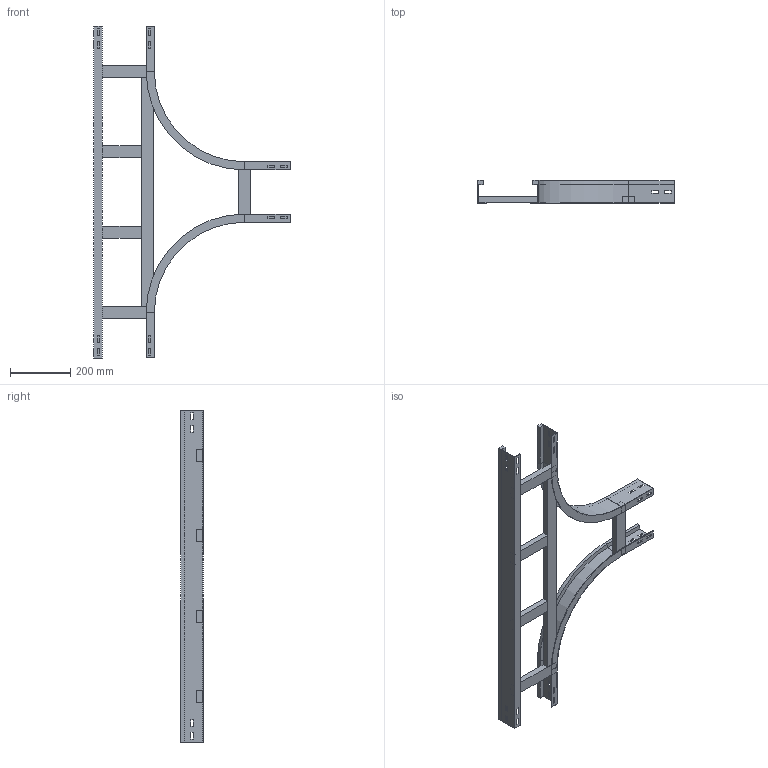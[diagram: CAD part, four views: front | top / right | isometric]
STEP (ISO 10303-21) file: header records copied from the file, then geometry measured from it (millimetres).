
FILE_DESCRIPTION (( 'STEP AP214' ), '1' );
FILE_NAME ('A2_15B3C200.step', '2025-02-21T15:53:03', ( '' ), ( '' ), 'SwSTEP 2.0', 'SolidWorks 2023', '' );
FILE_SCHEMA (( 'AUTOMOTIVE_DESIGN' ));
Length unit declared in the file: millimetre
Products named in the file (6): TRAVERSINO_INTERMEDIO_R300+200; TRAVERSINO_200; A2_LONGH.INTERNO 90°_H75_R300; A2_TRAVERSINO_LONG._R300+200; A2_LONGH.RETT_H75_R300+200; A2_15B3C200
Assembly tree (9 placements, depth 2):
  A2_15B3C200
    A2_LONGH.INTERNO 90°_H75_R300  x2
    A2_LONGH.RETT_H75_R300+200
    TRAVERSINO_200  x3
    A2_TRAVERSINO_LONG._R300+200
    TRAVERSINO_INTERMEDIO_R300+200  x2
Bounding box: 650 x 75 x 1100 mm (x, y, z)
Volume: 2380625 mm3; surface area: 836294.3 mm2
Topology: 9 solids, 9 shells, 194 faces, 496 edges, 320 vertices
Faces by surface type: plane 186, cylinder 8
Entity records: 3815 total; most frequent: CARTESIAN_POINT 638, ORIENTED_EDGE 616, DIRECTION 576, EDGE_CURVE 308, VECTOR 300, LINE 300, VERTEX_POINT 200, EDGE_LOOP 150
